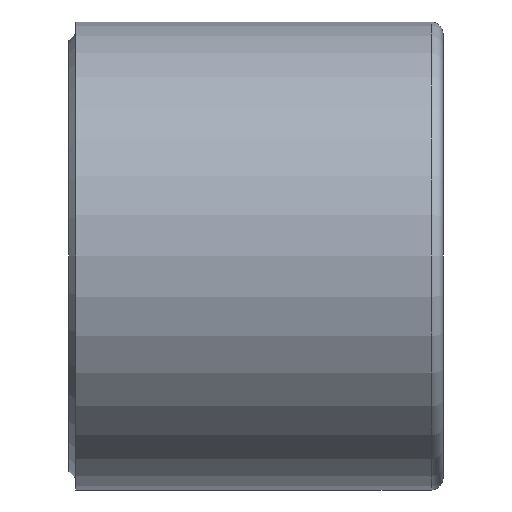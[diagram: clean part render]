
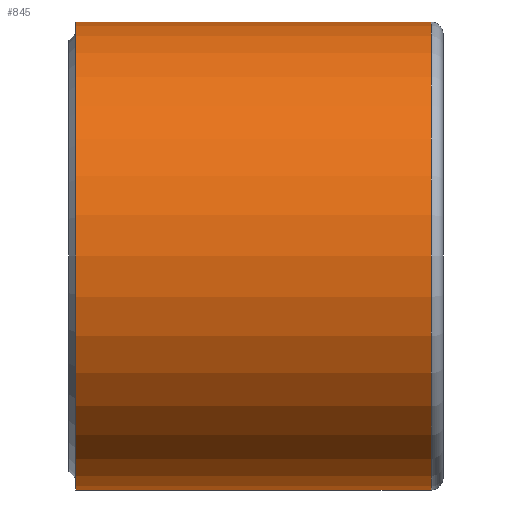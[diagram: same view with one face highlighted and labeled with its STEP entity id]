
A CAD part, front view. The second image highlights one B-rep face of the part: STEP entity #845.
In plain terms, the highlighted cylindrical face has radius 36.957 mm (diameter 73.914 mm), a partial arc.
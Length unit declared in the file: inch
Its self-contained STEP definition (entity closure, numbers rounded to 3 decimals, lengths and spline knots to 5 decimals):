
#16 = CARTESIAN_POINT ( 'NONE',  ( 0., 0., 1.455 ) ) ;
#26 = CARTESIAN_POINT ( 'NONE',  ( 2.25174, 0., -1.455 ) ) ;
#29 = ORIENTED_EDGE ( 'NONE', *, *, #134, .T. ) ;
#40 = CIRCLE ( 'NONE', #558, 1.455 ) ;
#64 = VERTEX_POINT ( 'NONE', #26 ) ;
#95 = DIRECTION ( 'NONE',  ( -1., 0., 0. ) ) ;
#102 = CARTESIAN_POINT ( 'NONE',  ( 2.25174, 0., 0. ) ) ;
#109 = DIRECTION ( 'NONE',  ( -1., 0., 0. ) ) ;
#124 = CIRCLE ( 'NONE', #785, 1.455 ) ;
#130 = VERTEX_POINT ( 'NONE', #477 ) ;
#134 = EDGE_CURVE ( 'NONE', #64, #279, #40, .T. ) ;
#164 = DIRECTION ( 'NONE',  ( -1., 0., 0. ) ) ;
#279 = VERTEX_POINT ( 'NONE', #284 ) ;
#284 = CARTESIAN_POINT ( 'NONE',  ( 2.25174, 0., 1.455 ) ) ;
#344 = ORIENTED_EDGE ( 'NONE', *, *, #768, .T. ) ;
#396 = LINE ( 'NONE', #617, #493 ) ;
#417 = FACE_OUTER_BOUND ( 'NONE', #488, .T. ) ;
#433 = ORIENTED_EDGE ( 'NONE', *, *, #878, .F. ) ;
#460 = CARTESIAN_POINT ( 'NONE',  ( 0.04274, 0., 1.455 ) ) ;
#464 = LINE ( 'NONE', #16, #917 ) ;
#477 = CARTESIAN_POINT ( 'NONE',  ( 0.04274, 0., -1.455 ) ) ;
#486 = ORIENTED_EDGE ( 'NONE', *, *, #775, .F. ) ;
#487 = CYLINDRICAL_SURFACE ( 'NONE', #897, 1.455 ) ;
#488 = EDGE_LOOP ( 'NONE', ( #486, #29, #344, #433 ) ) ;
#493 = VECTOR ( 'NONE', #164, 39.37008 ) ;
#495 = DIRECTION ( 'NONE',  ( -1., 0., 0. ) ) ;
#558 = AXIS2_PLACEMENT_3D ( 'NONE', #102, #632, #921 ) ;
#617 = CARTESIAN_POINT ( 'NONE',  ( 0., 0., -1.455 ) ) ;
#632 = DIRECTION ( 'NONE',  ( -1., 0., 0. ) ) ;
#634 = CARTESIAN_POINT ( 'NONE',  ( 0.04274, 0., 0. ) ) ;
#768 = EDGE_CURVE ( 'NONE', #279, #794, #464, .T. ) ;
#775 = EDGE_CURVE ( 'NONE', #64, #130, #396, .T. ) ;
#777 = DIRECTION ( 'NONE',  ( 0., 0., 1. ) ) ;
#780 = DIRECTION ( 'NONE',  ( 0., 0., 1. ) ) ;
#785 = AXIS2_PLACEMENT_3D ( 'NONE', #634, #495, #780 ) ;
#794 = VERTEX_POINT ( 'NONE', #460 ) ;
#845 = ADVANCED_FACE ( 'NONE', ( #417 ), #487, .T. ) ;
#860 = CARTESIAN_POINT ( 'NONE',  ( 0., 0., 0. ) ) ;
#878 = EDGE_CURVE ( 'NONE', #130, #794, #124, .T. ) ;
#897 = AXIS2_PLACEMENT_3D ( 'NONE', #860, #109, #777 ) ;
#917 = VECTOR ( 'NONE', #95, 39.37008 ) ;
#921 = DIRECTION ( 'NONE',  ( 0., 0., 1. ) ) ;
